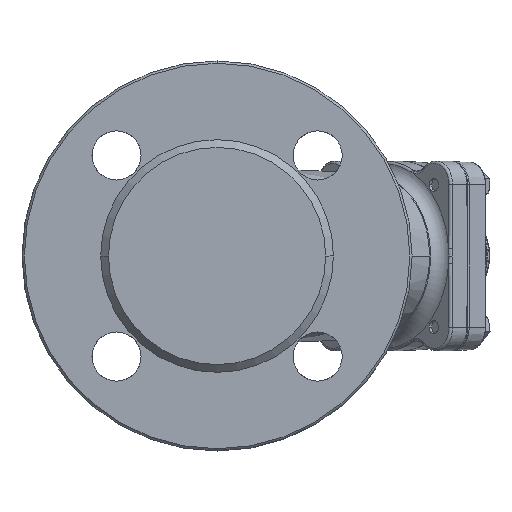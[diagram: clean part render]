
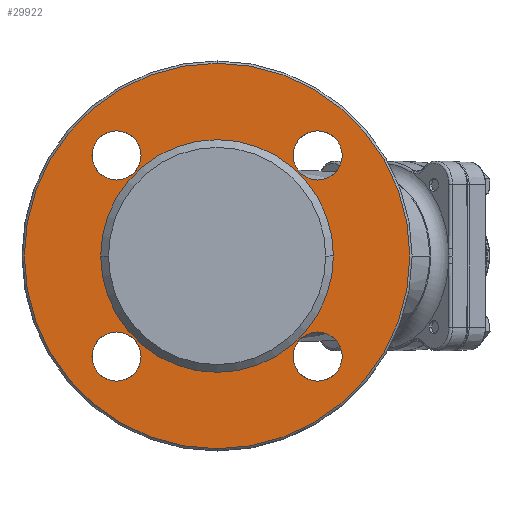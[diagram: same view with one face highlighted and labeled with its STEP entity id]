
A CAD part, left-side view. The second image highlights one B-rep face of the part: STEP entity #29922.
In plain terms, the highlighted planar face has unit normal (-1, 0, 0).
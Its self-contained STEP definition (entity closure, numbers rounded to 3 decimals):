
#587 = ORIENTED_EDGE ( 'NONE', *, *, #29138, .T. ) ;
#1041 = VERTEX_POINT ( 'NONE', #24462 ) ;
#1469 = EDGE_CURVE ( 'NONE', #34180, #13835, #44736, .T. ) ;
#1628 = CIRCLE ( 'NONE', #14579, 9.5 ) ;
#1875 = VERTEX_POINT ( 'NONE', #2313 ) ;
#2137 = CARTESIAN_POINT ( 'NONE',  ( -97., -38.891, -38.891 ) ) ;
#2313 = CARTESIAN_POINT ( 'NONE',  ( -97., 45., 0. ) ) ;
#2857 = DIRECTION ( 'NONE',  ( -1., 0., 0. ) ) ;
#3281 = ORIENTED_EDGE ( 'NONE', *, *, #36257, .T. ) ;
#4378 = ORIENTED_EDGE ( 'NONE', *, *, #8840, .T. ) ;
#4499 = CARTESIAN_POINT ( 'NONE',  ( -97., 38.891, -29.391 ) ) ;
#4739 = PLANE ( 'NONE',  #44399 ) ;
#5032 = CARTESIAN_POINT ( 'NONE',  ( -97., 0., 0. ) ) ;
#5449 = VERTEX_POINT ( 'NONE', #7695 ) ;
#5731 = CARTESIAN_POINT ( 'NONE',  ( -97., 38.891, 48.391 ) ) ;
#6049 = EDGE_CURVE ( 'NONE', #30777, #32259, #18122, .T. ) ;
#6268 = FACE_BOUND ( 'NONE', #44424, .T. ) ;
#6386 = CIRCLE ( 'NONE', #39536, 9.5 ) ;
#6569 = EDGE_LOOP ( 'NONE', ( #43141, #42093 ) ) ;
#7090 = DIRECTION ( 'NONE',  ( 0., 0., 1. ) ) ;
#7443 = CARTESIAN_POINT ( 'NONE',  ( -97., 38.891, -38.891 ) ) ;
#7598 = DIRECTION ( 'NONE',  ( 0., 0., 1. ) ) ;
#7695 = CARTESIAN_POINT ( 'NONE',  ( -97., 38.891, -48.391 ) ) ;
#8292 = ORIENTED_EDGE ( 'NONE', *, *, #40789, .T. ) ;
#8456 = FACE_BOUND ( 'NONE', #38450, .T. ) ;
#8840 = EDGE_CURVE ( 'NONE', #1875, #1041, #29034, .T. ) ;
#9160 = CARTESIAN_POINT ( 'NONE',  ( -97., -38.891, 48.391 ) ) ;
#9467 = DIRECTION ( 'NONE',  ( 0., -1., 0. ) ) ;
#10351 = CARTESIAN_POINT ( 'NONE',  ( -97., -38.891, -48.391 ) ) ;
#11383 = CARTESIAN_POINT ( 'NONE',  ( -97., -38.891, -29.391 ) ) ;
#12344 = CARTESIAN_POINT ( 'NONE',  ( -97., 0., 0. ) ) ;
#12429 = DIRECTION ( 'NONE',  ( 0., 0., 1. ) ) ;
#12749 = VERTEX_POINT ( 'NONE', #44785 ) ;
#13140 = CIRCLE ( 'NONE', #13990, 9.5 ) ;
#13835 = VERTEX_POINT ( 'NONE', #5731 ) ;
#13990 = AXIS2_PLACEMENT_3D ( 'NONE', #25003, #39400, #21632 ) ;
#14354 = EDGE_LOOP ( 'NONE', ( #27984, #41480 ) ) ;
#14579 = AXIS2_PLACEMENT_3D ( 'NONE', #7443, #42977, #7598 ) ;
#14928 = DIRECTION ( 'NONE',  ( 0., 0., 1. ) ) ;
#15596 = EDGE_CURVE ( 'NONE', #13835, #34180, #18837, .T. ) ;
#16036 = EDGE_CURVE ( 'NONE', #1041, #1875, #24600, .T. ) ;
#16679 = CARTESIAN_POINT ( 'NONE',  ( -97., 38.891, -38.891 ) ) ;
#17174 = VERTEX_POINT ( 'NONE', #9160 ) ;
#17247 = FACE_BOUND ( 'NONE', #6569, .T. ) ;
#17807 = FACE_OUTER_BOUND ( 'NONE', #26715, .T. ) ;
#18122 = CIRCLE ( 'NONE', #24103, 9.5 ) ;
#18248 = CARTESIAN_POINT ( 'NONE',  ( -97., 0., 0. ) ) ;
#18837 = CIRCLE ( 'NONE', #30797, 9.5 ) ;
#19031 = DIRECTION ( 'NONE',  ( 1., 0., 0. ) ) ;
#19589 = DIRECTION ( 'NONE',  ( 0., 0., 1. ) ) ;
#20431 = ORIENTED_EDGE ( 'NONE', *, *, #6049, .T. ) ;
#20525 = FACE_BOUND ( 'NONE', #14354, .T. ) ;
#21632 = DIRECTION ( 'NONE',  ( 0., 0., 1. ) ) ;
#22224 = AXIS2_PLACEMENT_3D ( 'NONE', #29891, #19031, #12429 ) ;
#22228 = AXIS2_PLACEMENT_3D ( 'NONE', #12344, #29801, #43758 ) ;
#23235 = EDGE_CURVE ( 'NONE', #12749, #30818, #30882, .T. ) ;
#23292 = CIRCLE ( 'NONE', #36389, 9.5 ) ;
#24103 = AXIS2_PLACEMENT_3D ( 'NONE', #2137, #40583, #19589 ) ;
#24307 = AXIS2_PLACEMENT_3D ( 'NONE', #26094, #35917, #14928 ) ;
#24462 = CARTESIAN_POINT ( 'NONE',  ( -97., -45., 0. ) ) ;
#24600 = CIRCLE ( 'NONE', #25968, 45. ) ;
#24771 = DIRECTION ( 'NONE',  ( 1., 0., 0. ) ) ;
#25003 = CARTESIAN_POINT ( 'NONE',  ( -97., -38.891, 38.891 ) ) ;
#25037 = CIRCLE ( 'NONE', #22224, 9.5 ) ;
#25214 = CARTESIAN_POINT ( 'NONE',  ( -97., 38.891, 38.891 ) ) ;
#25968 = AXIS2_PLACEMENT_3D ( 'NONE', #28708, #42645, #42336 ) ;
#26094 = CARTESIAN_POINT ( 'NONE',  ( -97., 38.891, 38.891 ) ) ;
#26534 = FACE_BOUND ( 'NONE', #44889, .T. ) ;
#26715 = EDGE_LOOP ( 'NONE', ( #587, #30884 ) ) ;
#27613 = ORIENTED_EDGE ( 'NONE', *, *, #42683, .T. ) ;
#27984 = ORIENTED_EDGE ( 'NONE', *, *, #36156, .T. ) ;
#28291 = VERTEX_POINT ( 'NONE', #35835 ) ;
#28299 = DIRECTION ( 'NONE',  ( 0., 0., 1. ) ) ;
#28708 = CARTESIAN_POINT ( 'NONE',  ( -97., 0., 0. ) ) ;
#29034 = CIRCLE ( 'NONE', #41807, 45. ) ;
#29138 = EDGE_CURVE ( 'NONE', #30818, #12749, #29873, .T. ) ;
#29424 = DIRECTION ( 'NONE',  ( 0., 1., 0. ) ) ;
#29801 = DIRECTION ( 'NONE',  ( -1., 0., 0. ) ) ;
#29873 = CIRCLE ( 'NONE', #33782, 74.551 ) ;
#29891 = CARTESIAN_POINT ( 'NONE',  ( -97., -38.891, 38.891 ) ) ;
#29922 = ADVANCED_FACE ( 'NONE', ( #6268, #17807, #8456, #26534, #20525, #17247 ), #4739, .T. ) ;
#30567 = DIRECTION ( 'NONE',  ( 0., 0., 1. ) ) ;
#30600 = DIRECTION ( 'NONE',  ( 1., 0., 0. ) ) ;
#30777 = VERTEX_POINT ( 'NONE', #10351 ) ;
#30797 = AXIS2_PLACEMENT_3D ( 'NONE', #25214, #24771, #28299 ) ;
#30818 = VERTEX_POINT ( 'NONE', #41607 ) ;
#30882 = CIRCLE ( 'NONE', #22228, 74.551 ) ;
#30884 = ORIENTED_EDGE ( 'NONE', *, *, #23235, .T. ) ;
#32259 = VERTEX_POINT ( 'NONE', #11383 ) ;
#33078 = DIRECTION ( 'NONE',  ( -1., 0., 0. ) ) ;
#33782 = AXIS2_PLACEMENT_3D ( 'NONE', #44687, #2857, #30567 ) ;
#34180 = VERTEX_POINT ( 'NONE', #36722 ) ;
#34550 = VERTEX_POINT ( 'NONE', #4499 ) ;
#34997 = CARTESIAN_POINT ( 'NONE',  ( -97., -38.891, -38.891 ) ) ;
#35835 = CARTESIAN_POINT ( 'NONE',  ( -97., -38.891, 29.391 ) ) ;
#35917 = DIRECTION ( 'NONE',  ( 1., 0., 0. ) ) ;
#36156 = EDGE_CURVE ( 'NONE', #34550, #5449, #1628, .T. ) ;
#36257 = EDGE_CURVE ( 'NONE', #28291, #17174, #13140, .T. ) ;
#36313 = ORIENTED_EDGE ( 'NONE', *, *, #16036, .T. ) ;
#36389 = AXIS2_PLACEMENT_3D ( 'NONE', #34997, #38224, #7090 ) ;
#36722 = CARTESIAN_POINT ( 'NONE',  ( -97., 38.891, 29.391 ) ) ;
#38224 = DIRECTION ( 'NONE',  ( 1., 0., 0. ) ) ;
#38450 = EDGE_LOOP ( 'NONE', ( #8292, #3281 ) ) ;
#39400 = DIRECTION ( 'NONE',  ( 1., 0., 0. ) ) ;
#39536 = AXIS2_PLACEMENT_3D ( 'NONE', #16679, #30600, #44874 ) ;
#39542 = DIRECTION ( 'NONE',  ( 1., 0., 0. ) ) ;
#39779 = EDGE_CURVE ( 'NONE', #5449, #34550, #6386, .T. ) ;
#40583 = DIRECTION ( 'NONE',  ( 1., 0., 0. ) ) ;
#40789 = EDGE_CURVE ( 'NONE', #17174, #28291, #25037, .T. ) ;
#41480 = ORIENTED_EDGE ( 'NONE', *, *, #39779, .T. ) ;
#41607 = CARTESIAN_POINT ( 'NONE',  ( -97., 0., 74.551 ) ) ;
#41807 = AXIS2_PLACEMENT_3D ( 'NONE', #18248, #39542, #29424 ) ;
#42093 = ORIENTED_EDGE ( 'NONE', *, *, #1469, .T. ) ;
#42336 = DIRECTION ( 'NONE',  ( 0., 1., 0. ) ) ;
#42645 = DIRECTION ( 'NONE',  ( 1., 0., 0. ) ) ;
#42683 = EDGE_CURVE ( 'NONE', #32259, #30777, #23292, .T. ) ;
#42977 = DIRECTION ( 'NONE',  ( 1., 0., 0. ) ) ;
#43141 = ORIENTED_EDGE ( 'NONE', *, *, #15596, .T. ) ;
#43758 = DIRECTION ( 'NONE',  ( 0., 0., 1. ) ) ;
#44399 = AXIS2_PLACEMENT_3D ( 'NONE', #5032, #33078, #9467 ) ;
#44424 = EDGE_LOOP ( 'NONE', ( #4378, #36313 ) ) ;
#44687 = CARTESIAN_POINT ( 'NONE',  ( -97., 0., 0. ) ) ;
#44736 = CIRCLE ( 'NONE', #24307, 9.5 ) ;
#44785 = CARTESIAN_POINT ( 'NONE',  ( -97., 0., -74.551 ) ) ;
#44874 = DIRECTION ( 'NONE',  ( 0., 0., 1. ) ) ;
#44889 = EDGE_LOOP ( 'NONE', ( #27613, #20431 ) ) ;
